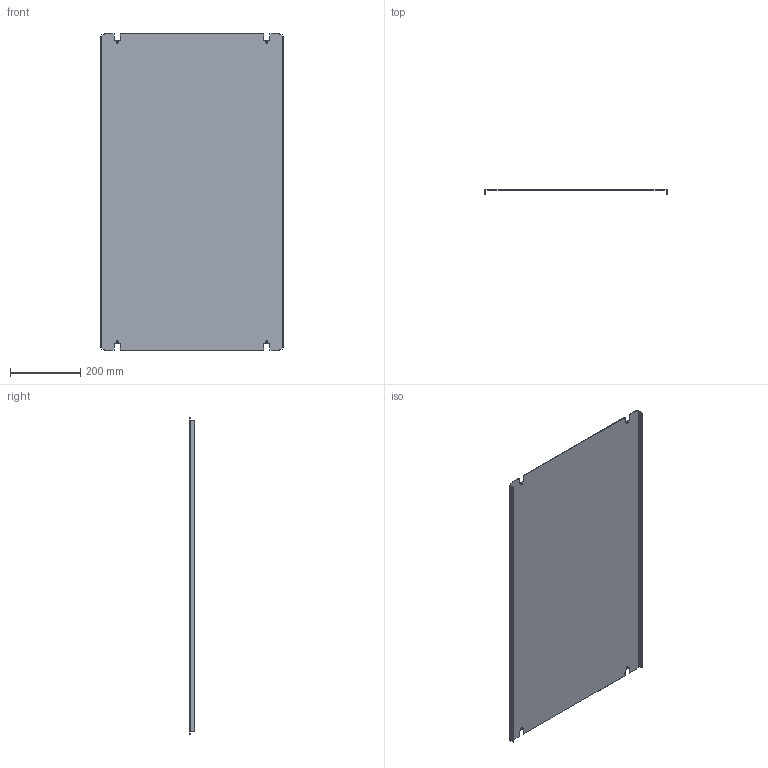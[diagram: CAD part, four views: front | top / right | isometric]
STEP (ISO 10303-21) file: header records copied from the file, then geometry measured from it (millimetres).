
FILE_DESCRIPTION(('CAx-IF Rec.Pracs.---Model Styling and Organization---1.2---2011-12-15','CAx-IF Rec.Pracs.---Geometric and Assembly Validation Properties---4.1---2014-06-16','CAx-IF Rec.Pracs.---PMI Polyline Presentation---2.0---2013-05-24'),'2;1');
FILE_NAME('R5CPL1055.stp','2021-05-06T03:47:51+03:00',(''),(''),'STEP Interface 4.4 by CT CoreTechnologie','3D_Evolution4.4 by CT CoreTechnologie','');
FILE_SCHEMA(('AUTOMOTIVE_DESIGN { 1 0 10303 214 1 1 1 1 }'));
Length unit declared in the file: millimetre
Products named in the file (2): R5CPL1055; RB.0902.00.00.0_-07
Assembly tree (1 placements, depth 2):
  R5CPL1055
    RB.0902.00.00.0_-07
Bounding box: 519 x 15 x 899 mm (x, y, z)
Surface area: 979741.7 mm2 (no closed solid volume)
Topology: 0 solids, 1 shells, 56 faces, 158 edges, 104 vertices
Faces by surface type: plane 44, cylinder 12
Entity records: 1883 total; most frequent: CARTESIAN_POINT 320, ORIENTED_EDGE 316, DIRECTION 298, EDGE_CURVE 158, VECTOR 134, LINE 134, VERTEX_POINT 104, AXIS2_PLACEMENT_3D 82
